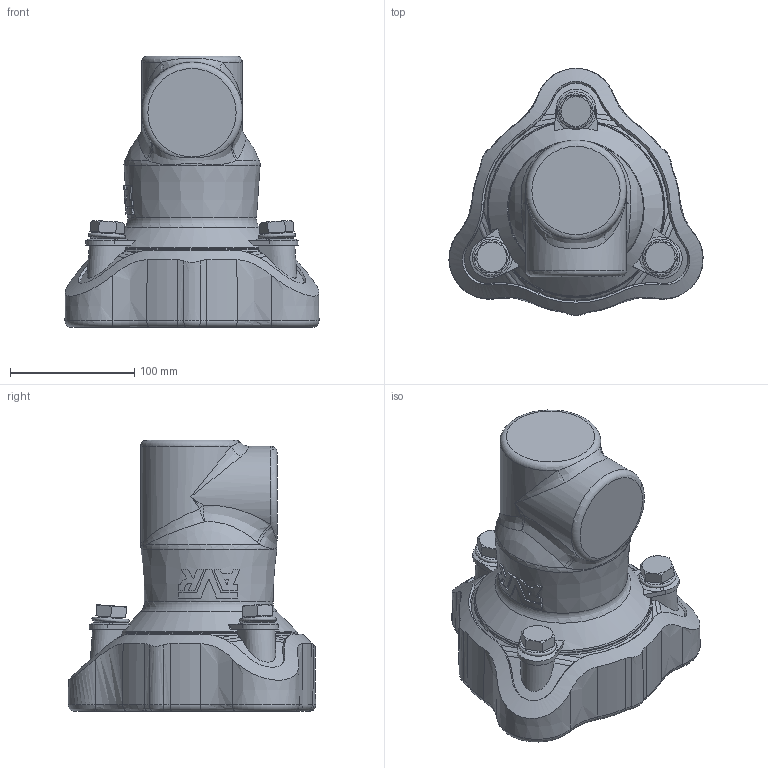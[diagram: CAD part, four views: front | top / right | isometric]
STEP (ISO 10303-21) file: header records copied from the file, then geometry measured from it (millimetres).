
FILE_DESCRIPTION (( 'STEP AP203' ), '1' );
FILE_NAME ('O_634_00_DN065_069-091mm_AA0_step.step', '2016-05-10T09:14:50', ( 'Windows User' ), ( 'AVK' ), 'SwSTEP 2.0', 'SolidWorks 2012', '' );
FILE_SCHEMA (( 'CONFIG_CONTROL_DESIGN' ));
Length unit declared in the file: millimetre
Products named in the file (1): O_634_00_DN065_069-091mm_AA0_step
Bounding box: 204.19 x 198.86 x 218.51 mm (x, y, z)
Volume: 2056836.9 mm3; surface area: 178093.7 mm2
Topology: 1 solids, 1 shells, 393 faces, 1024 edges, 648 vertices
Faces by surface type: bspline 126, plane 121, cylinder 58, cone 47, torus 34, sphere 7
Full cylindrical faces by diameter (mm): 20 x3, 91 x2
Entity records: 18789 total; most frequent: CARTESIAN_POINT 10911, ORIENTED_EDGE 1990, DIRECTION 1128, EDGE_CURVE 995, VERTEX_POINT 640, EDGE_LOOP 427, AXIS2_PLACEMENT_3D 410, FACE_OUTER_BOUND 409
